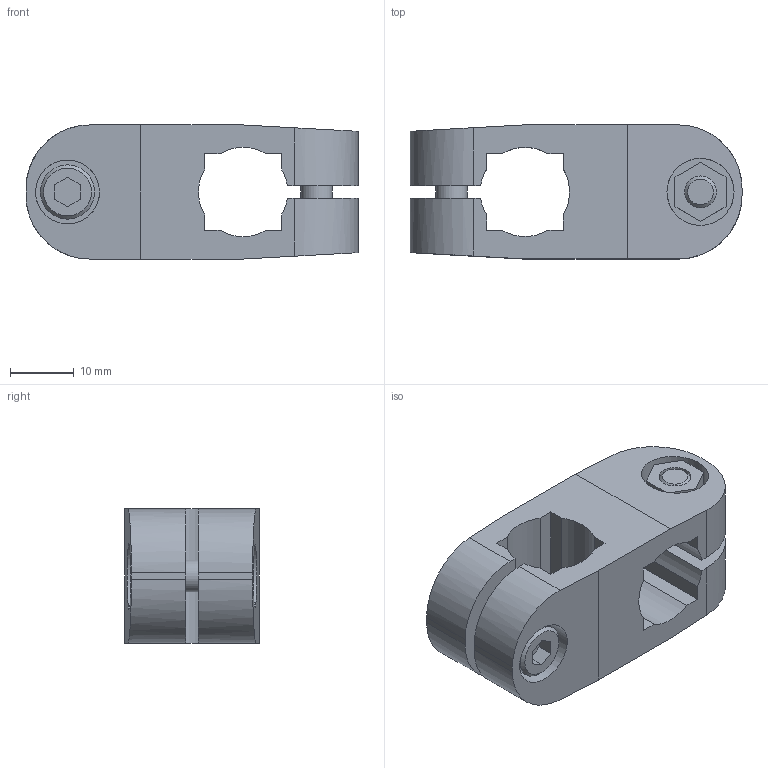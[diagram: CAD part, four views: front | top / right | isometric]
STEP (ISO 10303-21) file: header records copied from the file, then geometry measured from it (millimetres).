
FILE_DESCRIPTION( ( 'STEP AP203' ), '1' );
FILE_NAME( 'C:/Temp/Ganter_Step_05_03_2020/data/3_7/gn174/Two-way connector GN 174-B14-B14.stp', '2020-03-12T14:39:15', ( 'License CC BY-ND 4.0' ), ( 'CADENAS' ), ' ', 'PARTsolutions', ' ' );
FILE_SCHEMA( ( 'CONFIG_CONTROL_DESIGN' ) );
Length unit declared in the file: millimetre
Products named in the file (1): _Two-way connector GN 174-B14-B14
Bounding box: 52 x 21 x 21 mm (x, y, z)
Volume: 12251.9 mm3; surface area: 7853.3 mm2
Topology: 1 solids, 1 shells, 100 faces, 259 edges, 173 vertices
Faces by surface type: plane 68, cylinder 28, cone 4
Full cylindrical faces by diameter (mm): 5 x4, 8.5 x2, 10 x2, 10.5 x2
Entity records: 2988 total; most frequent: CARTESIAN_POINT 509, DIRECTION 502, ORIENTED_EDGE 480, EDGE_CURVE 240, LINE 180, VECTOR 180, VERTEX_POINT 168, AXIS2_PLACEMENT_3D 161
